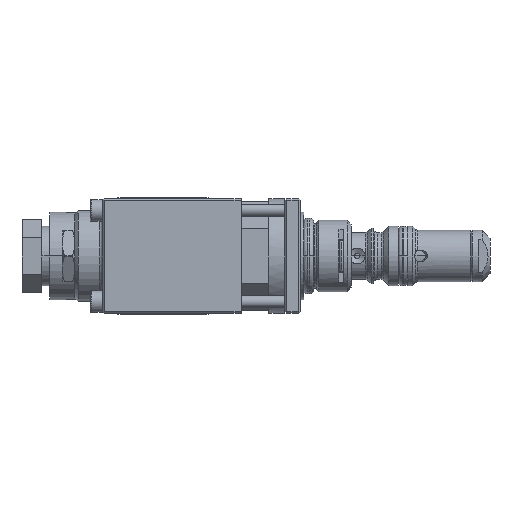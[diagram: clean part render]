
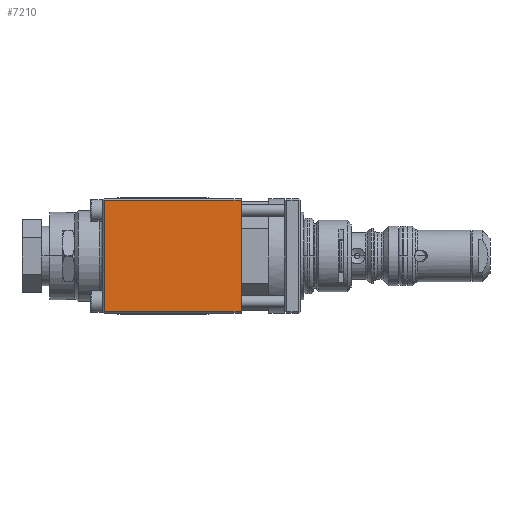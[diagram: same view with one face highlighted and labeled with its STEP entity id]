
A CAD part, front view. The second image highlights one B-rep face of the part: STEP entity #7210.
In plain terms, the highlighted planar face has unit normal (0, -1, 0).
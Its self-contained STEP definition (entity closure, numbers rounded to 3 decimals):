
#1084 = ORIENTED_EDGE ( 'NONE', *, *, #21029, .T. ) ;
#1266 = AXIS2_PLACEMENT_3D ( 'NONE', #24611, #14204, #16777 ) ;
#1676 = PLANE ( 'NONE',  #1266 ) ;
#1698 = ORIENTED_EDGE ( 'NONE', *, *, #19611, .T. ) ;
#1737 = VERTEX_POINT ( 'NONE', #23445 ) ;
#3182 = VECTOR ( 'NONE', #12206, 1000. ) ;
#5115 = CARTESIAN_POINT ( 'NONE',  ( -34.5, -14.5, -14.5 ) ) ;
#7087 = CARTESIAN_POINT ( 'NONE',  ( 0., -14.5, -14. ) ) ;
#7210 = ADVANCED_FACE ( 'NONE', ( #18673 ), #1676, .F. ) ;
#7337 = CARTESIAN_POINT ( 'NONE',  ( -34.5, -14.5, 14. ) ) ;
#8020 = CARTESIAN_POINT ( 'NONE',  ( 0., -14.5, 14. ) ) ;
#8829 = VECTOR ( 'NONE', #27778, 1000. ) ;
#10601 = EDGE_CURVE ( 'NONE', #12898, #25373, #27598, .T. ) ;
#11868 = CARTESIAN_POINT ( 'NONE',  ( 0., -14.5, -14. ) ) ;
#11935 = EDGE_LOOP ( 'NONE', ( #1698, #1084, #15554, #32189 ) ) ;
#12206 = DIRECTION ( 'NONE',  ( 0., 0., -1. ) ) ;
#12898 = VERTEX_POINT ( 'NONE', #16289 ) ;
#14204 = DIRECTION ( 'NONE',  ( 0., 1., 0. ) ) ;
#15554 = ORIENTED_EDGE ( 'NONE', *, *, #29221, .F. ) ;
#16289 = CARTESIAN_POINT ( 'NONE',  ( 0., -14.5, 14. ) ) ;
#16365 = LINE ( 'NONE', #5115, #8829 ) ;
#16777 = DIRECTION ( 'NONE',  ( 0., 0., 1. ) ) ;
#17302 = VERTEX_POINT ( 'NONE', #11868 ) ;
#18673 = FACE_OUTER_BOUND ( 'NONE', #11935, .T. ) ;
#19611 = EDGE_CURVE ( 'NONE', #25373, #1737, #16365, .T. ) ;
#21029 = EDGE_CURVE ( 'NONE', #1737, #17302, #24466, .T. ) ;
#21362 = DIRECTION ( 'NONE',  ( -1., 0., 0. ) ) ;
#22239 = DIRECTION ( 'NONE',  ( 1., 0., 0. ) ) ;
#23400 = LINE ( 'NONE', #24706, #3182 ) ;
#23445 = CARTESIAN_POINT ( 'NONE',  ( -34.5, -14.5, -14. ) ) ;
#24466 = LINE ( 'NONE', #7087, #25629 ) ;
#24611 = CARTESIAN_POINT ( 'NONE',  ( 0., -14.5, 14.5 ) ) ;
#24706 = CARTESIAN_POINT ( 'NONE',  ( 0., -14.5, 14.5 ) ) ;
#25373 = VERTEX_POINT ( 'NONE', #7337 ) ;
#25629 = VECTOR ( 'NONE', #22239, 1000. ) ;
#27598 = LINE ( 'NONE', #8020, #27736 ) ;
#27736 = VECTOR ( 'NONE', #21362, 1000. ) ;
#27778 = DIRECTION ( 'NONE',  ( 0., 0., -1. ) ) ;
#29221 = EDGE_CURVE ( 'NONE', #12898, #17302, #23400, .T. ) ;
#32189 = ORIENTED_EDGE ( 'NONE', *, *, #10601, .T. ) ;
